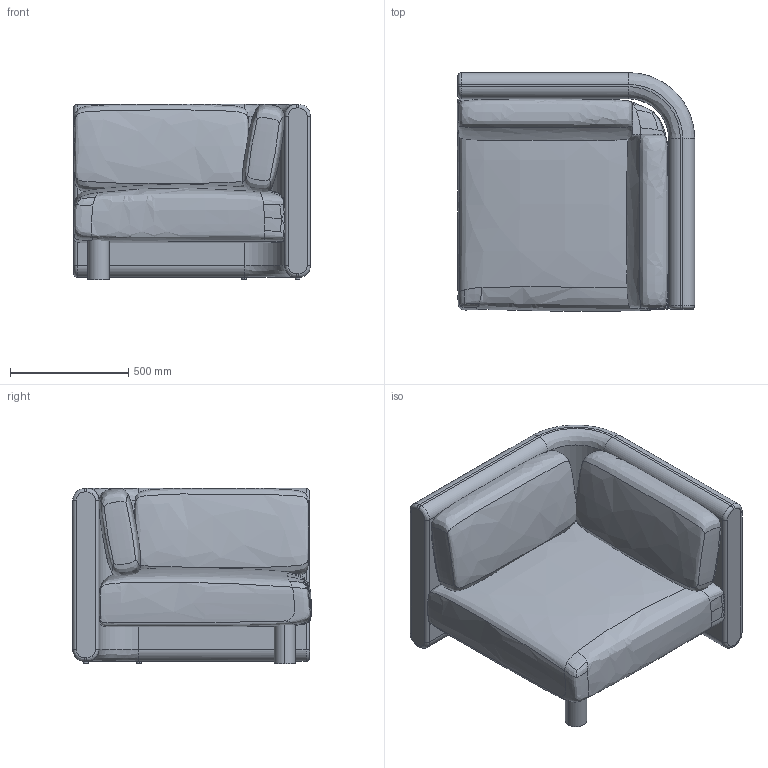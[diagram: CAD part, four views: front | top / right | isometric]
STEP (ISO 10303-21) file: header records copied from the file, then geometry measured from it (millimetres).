
FILE_DESCRIPTION(/* description */ (''),/* implementation_level */ '2;1');
FILE_NAME(/* name */ 'Dase corner_3D',/* time_stamp */ '2024-05-13T09:49:28+02:00',/* author */ (''),/* organization */ (''),/* preprocessor_version */ 'ST-DEVELOPER v16.5',/* originating_system */ 'Rhino 7.36',/* authorisation */ '');
FILE_SCHEMA (('CONFIG_CONTROL_DESIGN'));
Length unit declared in the file: millimetre
Products named in the file (1): Document
Bounding box: 1001.43 x 1007.24 x 740.64 mm (x, y, z)
Volume: 387514689.4 mm3; surface area: 6699671.9 mm2
Topology: 13 solids, 13 shells, 110 faces, 225 edges, 141 vertices
Faces by surface type: bspline 48, cylinder 36, plane 26
Entity records: 9869 total; most frequent: CARTESIAN_POINT 8290, ORIENTED_EDGE 450, EDGE_CURVE 225, VERTEX_POINT 141, ADVANCED_FACE 110, FACE_OUTER_BOUND 110, EDGE_LOOP 110, B_SPLINE_CURVE_WITH_KNOTS 95
